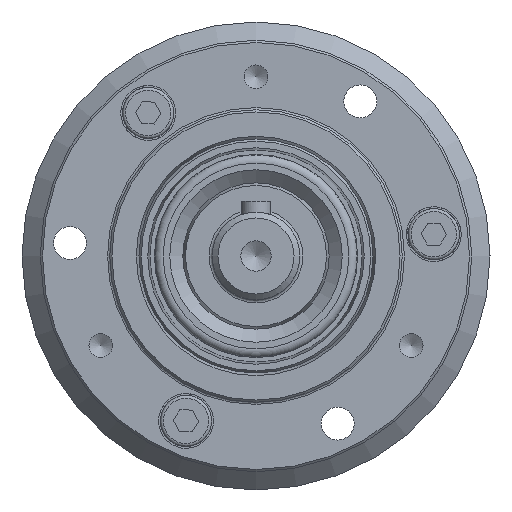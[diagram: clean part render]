
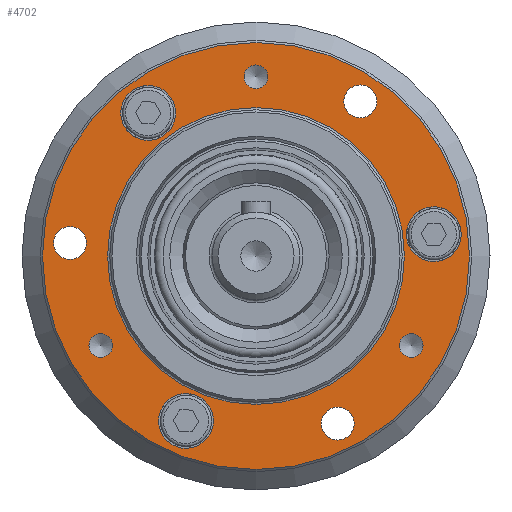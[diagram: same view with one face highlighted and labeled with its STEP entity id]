
A CAD part, left-side view. The second image highlights one B-rep face of the part: STEP entity #4702.
In plain terms, the highlighted planar face has unit normal (-1, 0, 0).
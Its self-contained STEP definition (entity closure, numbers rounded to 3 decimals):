
#892=FACE_BOUND('',#1401,.T.);
#893=FACE_BOUND('',#1402,.T.);
#894=FACE_BOUND('',#1403,.T.);
#895=FACE_BOUND('',#1404,.T.);
#896=FACE_BOUND('',#1405,.T.);
#897=FACE_BOUND('',#1406,.T.);
#898=FACE_BOUND('',#1407,.T.);
#899=FACE_BOUND('',#1408,.T.);
#900=FACE_BOUND('',#1409,.T.);
#901=FACE_BOUND('',#1410,.T.);
#1066=FACE_OUTER_BOUND('',#1400,.T.);
#1400=EDGE_LOOP('',(#3230));
#1401=EDGE_LOOP('',(#3231));
#1402=EDGE_LOOP('',(#3232));
#1403=EDGE_LOOP('',(#3233));
#1404=EDGE_LOOP('',(#3234));
#1405=EDGE_LOOP('',(#3235));
#1406=EDGE_LOOP('',(#3236));
#1407=EDGE_LOOP('',(#3237));
#1408=EDGE_LOOP('',(#3238));
#1409=EDGE_LOOP('',(#3239));
#1410=EDGE_LOOP('',(#3240));
#1775=CIRCLE('',#5071,29.2);
#1777=CIRCLE('',#5074,1.621);
#1779=CIRCLE('',#5078,3.75);
#1781=CIRCLE('',#5081,2.25);
#1783=CIRCLE('',#5085,2.25);
#1784=CIRCLE('',#5086,3.75);
#1785=CIRCLE('',#5087,1.621);
#1786=CIRCLE('',#5088,2.25);
#1787=CIRCLE('',#5089,3.75);
#1788=CIRCLE('',#5090,1.621);
#1789=CIRCLE('',#5091,20.3);
#2035=VERTEX_POINT('',#7038);
#2037=VERTEX_POINT('',#7043);
#2039=VERTEX_POINT('',#7049);
#2041=VERTEX_POINT('',#7054);
#2043=VERTEX_POINT('',#7060);
#2044=VERTEX_POINT('',#7062);
#2045=VERTEX_POINT('',#7064);
#2046=VERTEX_POINT('',#7066);
#2047=VERTEX_POINT('',#7068);
#2048=VERTEX_POINT('',#7070);
#2049=VERTEX_POINT('',#7072);
#2506=EDGE_CURVE('',#2035,#2035,#1775,.T.);
#2508=EDGE_CURVE('',#2037,#2037,#1777,.T.);
#2510=EDGE_CURVE('',#2039,#2039,#1779,.T.);
#2512=EDGE_CURVE('',#2041,#2041,#1781,.T.);
#2514=EDGE_CURVE('',#2043,#2043,#1783,.T.);
#2515=EDGE_CURVE('',#2044,#2044,#1784,.T.);
#2516=EDGE_CURVE('',#2045,#2045,#1785,.T.);
#2517=EDGE_CURVE('',#2046,#2046,#1786,.T.);
#2518=EDGE_CURVE('',#2047,#2047,#1787,.T.);
#2519=EDGE_CURVE('',#2048,#2048,#1788,.T.);
#2520=EDGE_CURVE('',#2049,#2049,#1789,.T.);
#3230=ORIENTED_EDGE('',*,*,#2506,.F.);
#3231=ORIENTED_EDGE('',*,*,#2514,.T.);
#3232=ORIENTED_EDGE('',*,*,#2515,.T.);
#3233=ORIENTED_EDGE('',*,*,#2516,.T.);
#3234=ORIENTED_EDGE('',*,*,#2517,.T.);
#3235=ORIENTED_EDGE('',*,*,#2518,.T.);
#3236=ORIENTED_EDGE('',*,*,#2519,.T.);
#3237=ORIENTED_EDGE('',*,*,#2508,.T.);
#3238=ORIENTED_EDGE('',*,*,#2510,.T.);
#3239=ORIENTED_EDGE('',*,*,#2512,.T.);
#3240=ORIENTED_EDGE('',*,*,#2520,.F.);
#4226=PLANE('',#5084);
#4702=ADVANCED_FACE('',(#1066,#892,#893,#894,#895,#896,#897,#898,#899,#900,
#901),#4226,.T.);
#5071=AXIS2_PLACEMENT_3D('',#7039,#5772,#5773);
#5074=AXIS2_PLACEMENT_3D('',#7044,#5778,#5779);
#5078=AXIS2_PLACEMENT_3D('',#7050,#5786,#5787);
#5081=AXIS2_PLACEMENT_3D('',#7055,#5792,#5793);
#5084=AXIS2_PLACEMENT_3D('',#7059,#5798,#5799);
#5085=AXIS2_PLACEMENT_3D('',#7061,#5800,#5801);
#5086=AXIS2_PLACEMENT_3D('',#7063,#5802,#5803);
#5087=AXIS2_PLACEMENT_3D('',#7065,#5804,#5805);
#5088=AXIS2_PLACEMENT_3D('',#7067,#5806,#5807);
#5089=AXIS2_PLACEMENT_3D('',#7069,#5808,#5809);
#5090=AXIS2_PLACEMENT_3D('',#7071,#5810,#5811);
#5091=AXIS2_PLACEMENT_3D('',#7073,#5812,#5813);
#5772=DIRECTION('center_axis',(1.,0.,0.));
#5773=DIRECTION('ref_axis',(0.,0.,
-1.));
#5778=DIRECTION('center_axis',(1.,0.,0.));
#5779=DIRECTION('ref_axis',(0.,-1.,0.));
#5786=DIRECTION('center_axis',(1.,0.,0.));
#5787=DIRECTION('ref_axis',(0.,-1.,0.));
#5792=DIRECTION('center_axis',(1.,0.,0.));
#5793=DIRECTION('ref_axis',(0.,-1.,0.));
#5798=DIRECTION('center_axis',(-1.,0.,0.));
#5799=DIRECTION('ref_axis',(0.,-1.,0.));
#5800=DIRECTION('center_axis',(1.,0.,0.));
#5801=DIRECTION('ref_axis',(0.,0.5,0.866));
#5802=DIRECTION('center_axis',(1.,0.,0.));
#5803=DIRECTION('ref_axis',(0.,0.5,0.866));
#5804=DIRECTION('center_axis',(1.,0.,0.));
#5805=DIRECTION('ref_axis',(0.,0.5,0.866));
#5806=DIRECTION('center_axis',(1.,0.,0.));
#5807=DIRECTION('ref_axis',(0.,0.5,-0.866));
#5808=DIRECTION('center_axis',(1.,0.,0.));
#5809=DIRECTION('ref_axis',(0.,0.5,-0.866));
#5810=DIRECTION('center_axis',(1.,0.,0.));
#5811=DIRECTION('ref_axis',(0.,0.5,-0.866));
#5812=DIRECTION('center_axis',(-1.,0.,0.));
#5813=DIRECTION('ref_axis',(0.,0.,
-1.));
#7038=CARTESIAN_POINT('',(3.,0.,29.2));
#7039=CARTESIAN_POINT('Origin',(3.,0.,0.));
#7043=CARTESIAN_POINT('',(3.,1.621,24.5));
#7044=CARTESIAN_POINT('Origin',(3.,0.,24.5));
#7049=CARTESIAN_POINT('',(3.,18.494,19.567));
#7050=CARTESIAN_POINT('Origin',(3.,14.744,19.567));
#7054=CARTESIAN_POINT('',(3.,-12.009,21.14));
#7055=CARTESIAN_POINT('Origin',(3.,-14.259,21.14));
#7059=CARTESIAN_POINT('Origin',(3.,0.,24.75));
#7060=CARTESIAN_POINT('',(3.,24.313,-0.17));
#7061=CARTESIAN_POINT('Origin',(3.,25.438,1.779));
#7062=CARTESIAN_POINT('',(3.,7.698,-25.8));
#7063=CARTESIAN_POINT('Origin',(3.,9.573,-22.552));
#7064=CARTESIAN_POINT('',(3.,20.407,-13.654));
#7065=CARTESIAN_POINT('Origin',(3.,21.218,-12.25));
#7066=CARTESIAN_POINT('',(3.,-12.303,-20.971));
#7067=CARTESIAN_POINT('Origin',(3.,-11.178,-22.919));
#7068=CARTESIAN_POINT('',(3.,-26.192,6.233));
#7069=CARTESIAN_POINT('Origin',(3.,-24.317,2.986));
#7070=CARTESIAN_POINT('',(3.,-22.028,-10.846));
#7071=CARTESIAN_POINT('Origin',(3.,-21.218,-12.25));
#7072=CARTESIAN_POINT('',(3.,0.,20.3));
#7073=CARTESIAN_POINT('Origin',(3.,0.,0.));
